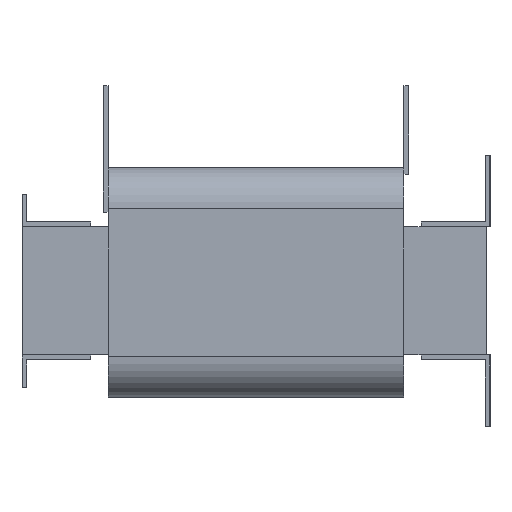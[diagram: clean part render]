
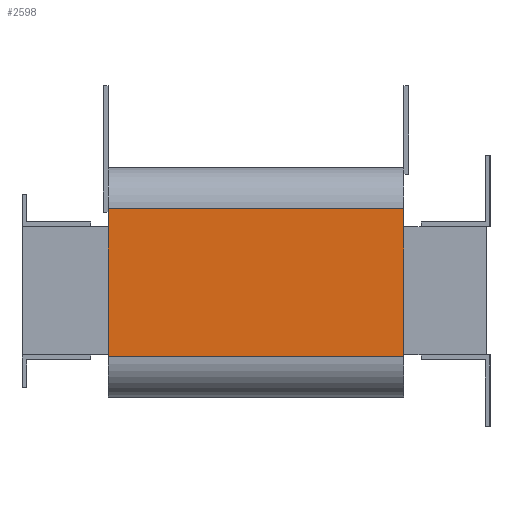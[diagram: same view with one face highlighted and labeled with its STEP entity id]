
A CAD part, left-side view. The second image highlights one B-rep face of the part: STEP entity #2598.
In plain terms, the highlighted planar face has unit normal (-1, 0, 0).
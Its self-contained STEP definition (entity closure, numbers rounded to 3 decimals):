
#102=PLANE('',#2804);
#231=FACE_OUTER_BOUND('',#381,.T.);
#381=EDGE_LOOP('',(#2166,#2167,#2168,#2169));
#630=LINE('',#4035,#948);
#649=LINE('',#4085,#967);
#650=LINE('',#4088,#968);
#651=LINE('',#4089,#969);
#948=VECTOR('',#3290,10.);
#967=VECTOR('',#3335,10.);
#968=VECTOR('',#3338,10.);
#969=VECTOR('',#3339,10.);
#1291=VERTEX_POINT('',#4032);
#1292=VERTEX_POINT('',#4034);
#1310=VERTEX_POINT('',#4083);
#1311=VERTEX_POINT('',#4087);
#1601=EDGE_CURVE('',#1291,#1292,#630,.T.);
#1627=EDGE_CURVE('',#1310,#1291,#649,.T.);
#1628=EDGE_CURVE('',#1310,#1311,#650,.T.);
#1629=EDGE_CURVE('',#1292,#1311,#651,.T.);
#2166=ORIENTED_EDGE('',*,*,#1627,.F.);
#2167=ORIENTED_EDGE('',*,*,#1628,.T.);
#2168=ORIENTED_EDGE('',*,*,#1629,.F.);
#2169=ORIENTED_EDGE('',*,*,#1601,.F.);
#2598=ADVANCED_FACE('',(#231),#102,.T.);
#2804=AXIS2_PLACEMENT_3D('',#4086,#3336,#3337);
#3290=DIRECTION('',(0.,0.,1.));
#3335=DIRECTION('',(0.,1.,0.));
#3336=DIRECTION('center_axis',(-1.,0.,0.));
#3337=DIRECTION('ref_axis',(0.,0.,1.));
#3338=DIRECTION('',(0.,0.,1.));
#3339=DIRECTION('',(0.,-1.,0.));
#4032=CARTESIAN_POINT('',(-163.5,232.5,-40.));
#4034=CARTESIAN_POINT('',(-163.5,232.5,50.));
#4035=CARTESIAN_POINT('',(-163.5,232.5,-65.));
#4083=CARTESIAN_POINT('',(-163.5,52.5,-40.));
#4085=CARTESIAN_POINT('',(-163.5,52.5,-40.));
#4086=CARTESIAN_POINT('Origin',(-163.5,52.5,-65.));
#4087=CARTESIAN_POINT('',(-163.5,52.5,50.));
#4088=CARTESIAN_POINT('',(-163.5,52.5,-65.));
#4089=CARTESIAN_POINT('',(-163.5,52.5,50.));
